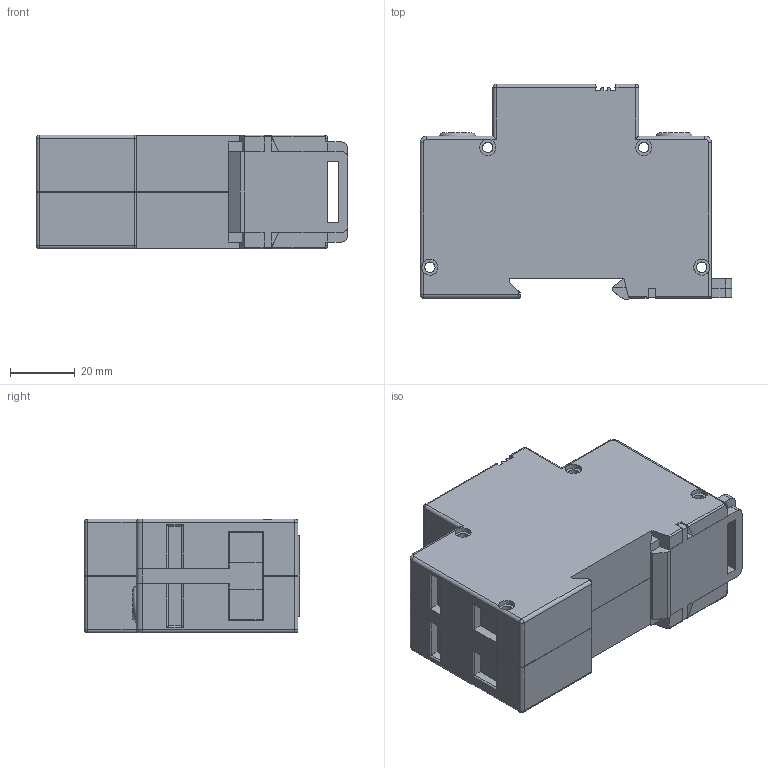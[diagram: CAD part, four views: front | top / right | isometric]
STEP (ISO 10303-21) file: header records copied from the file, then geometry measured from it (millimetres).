
FILE_DESCRIPTION(/* description */ (''),/* implementation_level */ '2;1');
FILE_NAME(/* name */ 'K:\PROJEKTY ROZPRACOVANÉ\MODELY DO KATALOGU\HS\3D - STEP\HLA50 1+0.stp',/* time_stamp */ '2020-03-24T16:11:19+01:00',/* author */ ('M Koliska'),/* organization */ (''),/* preprocessor_version */ 'ST-DEVELOPER v18',/* originating_system */ 'Autodesk Inventor 2020',/* authorisation */ '');
FILE_SCHEMA (('AUTOMOTIVE_DESIGN { 1 0 10303 214 3 1 1 }'));
Length unit declared in the file: millimetre
Products named in the file (3): HS50-50; PI-k8; DIN 7985 (H) - M6x10-H
Assembly tree (3 placements, depth 2):
  HS50-50
    PI-k8
    DIN 7985 (H) - M6x10-H  x2
Bounding box: 96.3 x 66.5 x 35.2 mm (x, y, z)
Volume: 174424.2 mm3; surface area: 26305.3 mm2
Topology: 3 solids, 4 shells, 449 faces, 1229 edges, 783 vertices
Faces by surface type: plane 298, cylinder 99, cone 32, sphere 8, bspline 8, torus 4
Full cylindrical faces by diameter (mm): 3.2 x4, 5 x8, 5.5 x2, 6 x2, 8 x2
Entity records: 13094 total; most frequent: CARTESIAN_POINT 2400, ORIENTED_EDGE 2244, DIRECTION 2183, EDGE_CURVE 1122, LINE 827, VECTOR 827, VERTEX_POINT 711, AXIS2_PLACEMENT_3D 678
